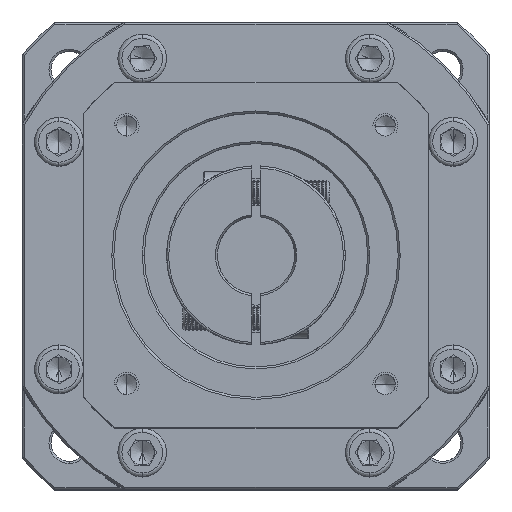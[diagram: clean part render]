
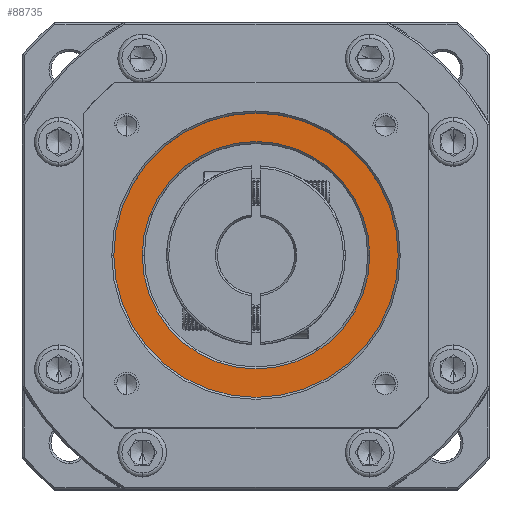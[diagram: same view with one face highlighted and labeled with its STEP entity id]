
A CAD part, top view. The second image highlights one B-rep face of the part: STEP entity #88735.
In plain terms, the highlighted planar face has unit normal (0, 0, 1).
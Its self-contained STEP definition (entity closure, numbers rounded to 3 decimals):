
#3058 = CIRCLE ( 'NONE', #94757, 35. ) ;
#4813 = DIRECTION ( 'NONE',  ( 0., 0., -1. ) ) ;
#5215 = AXIS2_PLACEMENT_3D ( 'NONE', #63018, #7287, #72379 ) ;
#6536 = ORIENTED_EDGE ( 'NONE', *, *, #55504, .T. ) ;
#7287 = DIRECTION ( 'NONE',  ( 0., 0., 1. ) ) ;
#9492 = EDGE_CURVE ( 'NONE', #68830, #27306, #3058, .T. ) ;
#15501 = VERTEX_POINT ( 'NONE', #91411 ) ;
#17315 = EDGE_LOOP ( 'NONE', ( #104050, #32147 ) ) ;
#21409 = CARTESIAN_POINT ( 'NONE',  ( -77.267, 37.701, -1.595 ) ) ;
#21413 = EDGE_LOOP ( 'NONE', ( #28996, #6536 ) ) ;
#23889 = CARTESIAN_POINT ( 'NONE',  ( -49.267, 37.701, -1.595 ) ) ;
#27306 = VERTEX_POINT ( 'NONE', #115386 ) ;
#28116 = DIRECTION ( 'NONE',  ( 0., 0., 1. ) ) ;
#28996 = ORIENTED_EDGE ( 'NONE', *, *, #97847, .T. ) ;
#30743 = DIRECTION ( 'NONE',  ( 1., 0., 0. ) ) ;
#32147 = ORIENTED_EDGE ( 'NONE', *, *, #9492, .T. ) ;
#33506 = CARTESIAN_POINT ( 'NONE',  ( -112.267, 37.701, -1.595 ) ) ;
#38660 = EDGE_CURVE ( 'NONE', #27306, #68830, #47219, .T. ) ;
#47219 = CIRCLE ( 'NONE', #50269, 35. ) ;
#50269 = AXIS2_PLACEMENT_3D ( 'NONE', #106190, #50375, #115514 ) ;
#50375 = DIRECTION ( 'NONE',  ( 0., 0., 1. ) ) ;
#52419 = CIRCLE ( 'NONE', #77161, 28. ) ;
#55504 = EDGE_CURVE ( 'NONE', #15501, #78344, #52419, .T. ) ;
#60466 = CARTESIAN_POINT ( 'NONE',  ( -77.267, 37.701, -1.595 ) ) ;
#63018 = CARTESIAN_POINT ( 'NONE',  ( -77.267, 37.701, -1.595 ) ) ;
#68830 = VERTEX_POINT ( 'NONE', #33506 ) ;
#69843 = DIRECTION ( 'NONE',  ( 1., 0., 0. ) ) ;
#69930 = CIRCLE ( 'NONE', #78179, 28. ) ;
#71981 = PLANE ( 'NONE',  #5215 ) ;
#72379 = DIRECTION ( 'NONE',  ( 1., 0., 0. ) ) ;
#77161 = AXIS2_PLACEMENT_3D ( 'NONE', #21409, #86650, #30743 ) ;
#78179 = AXIS2_PLACEMENT_3D ( 'NONE', #60466, #4813, #69843 ) ;
#78344 = VERTEX_POINT ( 'NONE', #23889 ) ;
#81538 = FACE_BOUND ( 'NONE', #21413, .T. ) ;
#84019 = CARTESIAN_POINT ( 'NONE',  ( -77.267, 37.701, -1.595 ) ) ;
#86650 = DIRECTION ( 'NONE',  ( 0., 0., -1. ) ) ;
#88735 = ADVANCED_FACE ( 'NONE', ( #106285, #81538 ), #71981, .T. ) ;
#91411 = CARTESIAN_POINT ( 'NONE',  ( -105.267, 37.701, -1.595 ) ) ;
#93354 = DIRECTION ( 'NONE',  ( 1., 0., 0. ) ) ;
#94757 = AXIS2_PLACEMENT_3D ( 'NONE', #84019, #28116, #93354 ) ;
#97847 = EDGE_CURVE ( 'NONE', #78344, #15501, #69930, .T. ) ;
#104050 = ORIENTED_EDGE ( 'NONE', *, *, #38660, .T. ) ;
#106190 = CARTESIAN_POINT ( 'NONE',  ( -77.267, 37.701, -1.595 ) ) ;
#106285 = FACE_OUTER_BOUND ( 'NONE', #17315, .T. ) ;
#115386 = CARTESIAN_POINT ( 'NONE',  ( -42.267, 37.701, -1.595 ) ) ;
#115514 = DIRECTION ( 'NONE',  ( 1., 0., 0. ) ) ;
